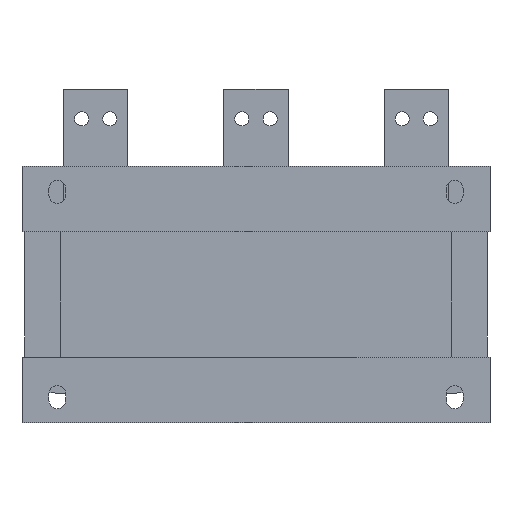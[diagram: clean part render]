
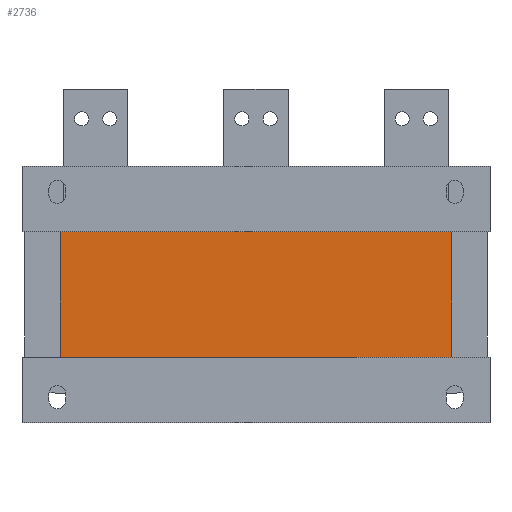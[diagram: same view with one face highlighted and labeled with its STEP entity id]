
A CAD part, front view. The second image highlights one B-rep face of the part: STEP entity #2736.
In plain terms, the highlighted planar face has unit normal (0, -1, 0).
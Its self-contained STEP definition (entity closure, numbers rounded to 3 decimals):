
#104=PLANE('',#2950);
#234=FACE_OUTER_BOUND('',#400,.T.);
#400=EDGE_LOOP('',(#2199,#2200,#2201,#2202));
#642=LINE('',#4227,#966);
#643=LINE('',#4229,#967);
#644=LINE('',#4231,#968);
#645=LINE('',#4232,#969);
#966=VECTOR('',#3454,10.);
#967=VECTOR('',#3455,10.);
#968=VECTOR('',#3456,10.);
#969=VECTOR('',#3457,10.);
#1341=VERTEX_POINT('',#4225);
#1342=VERTEX_POINT('',#4226);
#1343=VERTEX_POINT('',#4228);
#1344=VERTEX_POINT('',#4230);
#1664=EDGE_CURVE('',#1341,#1342,#642,.T.);
#1665=EDGE_CURVE('',#1343,#1341,#643,.T.);
#1666=EDGE_CURVE('',#1344,#1343,#644,.T.);
#1667=EDGE_CURVE('',#1342,#1344,#645,.T.);
#2199=ORIENTED_EDGE('',*,*,#1664,.F.);
#2200=ORIENTED_EDGE('',*,*,#1665,.F.);
#2201=ORIENTED_EDGE('',*,*,#1666,.F.);
#2202=ORIENTED_EDGE('',*,*,#1667,.F.);
#2736=ADVANCED_FACE('',(#234),#104,.F.);
#2950=AXIS2_PLACEMENT_3D('',#4224,#3452,#3453);
#3452=DIRECTION('center_axis',(0.,1.,0.));
#3453=DIRECTION('ref_axis',(0.,0.,1.));
#3454=DIRECTION('',(1.,0.,0.));
#3455=DIRECTION('',(0.,0.,1.));
#3456=DIRECTION('',(-1.,0.,0.));
#3457=DIRECTION('',(0.,0.,-1.));
#4224=CARTESIAN_POINT('Origin',(0.,2.,0.));
#4225=CARTESIAN_POINT('',(-152.5,2.,49.));
#4226=CARTESIAN_POINT('',(152.5,2.,49.));
#4227=CARTESIAN_POINT('',(152.5,2.,49.));
#4228=CARTESIAN_POINT('',(-152.5,2.,-49.));
#4229=CARTESIAN_POINT('',(-152.5,2.,-24.5));
#4230=CARTESIAN_POINT('',(152.5,2.,-49.));
#4231=CARTESIAN_POINT('',(-152.5,2.,-49.));
#4232=CARTESIAN_POINT('',(152.5,2.,24.5));
